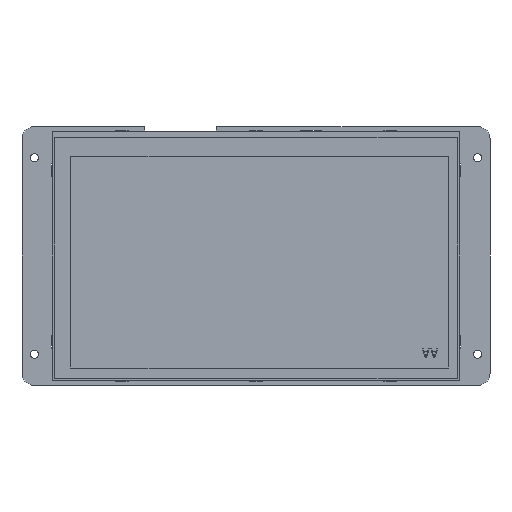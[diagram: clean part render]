
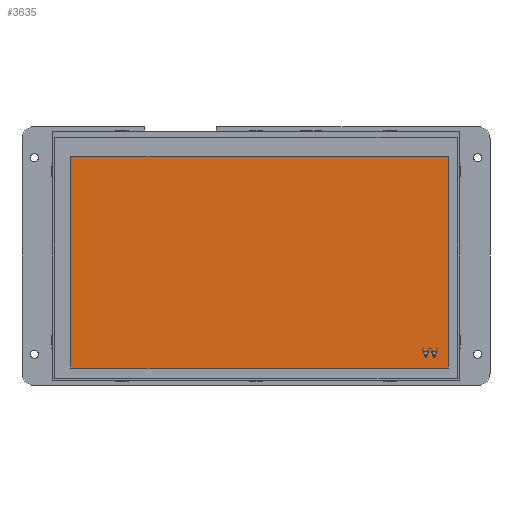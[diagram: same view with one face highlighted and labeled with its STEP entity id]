
A CAD part, front view. The second image highlights one B-rep face of the part: STEP entity #3635.
In plain terms, the highlighted planar face has unit normal (0, -1, 0) as drawn and (0, 1, 0) by its records, which use the part's own axes.
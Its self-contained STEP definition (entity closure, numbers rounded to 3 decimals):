
#3062=DIRECTION('',(0.,0.,1.));
#3063=VECTOR('',#3062,86.18);
#3064=CARTESIAN_POINT('',(-78.38,1.4,-44.77));
#3065=LINE('',#3064,#3063);
#3066=DIRECTION('',(-1.,0.,0.));
#3067=VECTOR('',#3066,153.68);
#3068=CARTESIAN_POINT('',(75.3,1.4,-44.77));
#3069=LINE('',#3068,#3067);
#3070=DIRECTION('',(0.,0.,-1.));
#3071=VECTOR('',#3070,86.18);
#3072=CARTESIAN_POINT('',(75.3,1.4,41.41));
#3073=LINE('',#3072,#3071);
#3074=DIRECTION('',(1.,0.,0.));
#3075=VECTOR('',#3074,153.68);
#3076=CARTESIAN_POINT('',(-78.38,1.4,41.41));
#3077=LINE('',#3076,#3075);
#3078=DIRECTION('',(0.316,0.,0.949));
#3079=VECTOR('',#3078,3.521);
#3080=CARTESIAN_POINT('',(-72.264,1.4,-40.371));
#3081=LINE('',#3080,#3079);
#3082=DIRECTION('',(1.,0.,0.));
#3083=VECTOR('',#3082,0.557);
#3084=CARTESIAN_POINT('',(-72.82,1.4,-40.371));
#3085=LINE('',#3084,#3083);
#3086=DIRECTION('',(0.316,0.,-0.949));
#3087=VECTOR('',#3086,3.521);
#3088=CARTESIAN_POINT('',(-73.934,1.4,-37.031));
#3089=LINE('',#3088,#3087);
#3090=DIRECTION('',(-1.,0.,0.));
#3091=VECTOR('',#3090,0.418);
#3092=CARTESIAN_POINT('',(-73.516,1.4,-37.031));
#3093=LINE('',#3092,#3091);
#3094=DIRECTION('',(-0.31,0.,0.951));
#3095=VECTOR('',#3094,0.897);
#3096=CARTESIAN_POINT('',(-73.238,1.4,-37.884));
#3097=LINE('',#3096,#3095);
#3098=DIRECTION('',(-1.,0.,0.));
#3099=VECTOR('',#3098,1.392);
#3100=CARTESIAN_POINT('',(-71.846,1.4,-37.884));
#3101=LINE('',#3100,#3099);
#3102=DIRECTION('',(-0.31,0.,-0.951));
#3103=VECTOR('',#3102,0.897);
#3104=CARTESIAN_POINT('',(-71.568,1.4,-37.031));
#3105=LINE('',#3104,#3103);
#3106=DIRECTION('',(-1.,0.,0.));
#3107=VECTOR('',#3106,0.418);
#3108=CARTESIAN_POINT('',(-71.15,1.4,-37.031));
#3109=LINE('',#3108,#3107);
#3122=DIRECTION('',(0.316,0.,0.949));
#3123=VECTOR('',#3122,3.521);
#3124=CARTESIAN_POINT('',(-68.924,1.4,-40.371));
#3125=LINE('',#3124,#3123);
#3126=DIRECTION('',(1.,0.,0.));
#3127=VECTOR('',#3126,0.557);
#3128=CARTESIAN_POINT('',(-69.48,1.4,-40.371));
#3129=LINE('',#3128,#3127);
#3130=DIRECTION('',(0.316,0.,-0.949));
#3131=VECTOR('',#3130,3.521);
#3132=CARTESIAN_POINT('',(-70.594,1.4,-37.031));
#3133=LINE('',#3132,#3131);
#3134=DIRECTION('',(-1.,0.,0.));
#3135=VECTOR('',#3134,0.418);
#3136=CARTESIAN_POINT('',(-70.176,1.4,-37.031));
#3137=LINE('',#3136,#3135);
#3138=DIRECTION('',(-0.31,0.,0.951));
#3139=VECTOR('',#3138,0.897);
#3140=CARTESIAN_POINT('',(-69.898,1.4,-37.884));
#3141=LINE('',#3140,#3139);
#3142=DIRECTION('',(-1.,0.,0.));
#3143=VECTOR('',#3142,1.392);
#3144=CARTESIAN_POINT('',(-68.506,1.4,-37.884));
#3145=LINE('',#3144,#3143);
#3146=DIRECTION('',(-0.31,0.,-0.951));
#3147=VECTOR('',#3146,0.897);
#3148=CARTESIAN_POINT('',(-68.228,1.4,-37.031));
#3149=LINE('',#3148,#3147);
#3150=DIRECTION('',(-1.,0.,0.));
#3151=VECTOR('',#3150,0.418);
#3152=CARTESIAN_POINT('',(-67.81,1.4,-37.031));
#3153=LINE('',#3152,#3151);
#3270=CARTESIAN_POINT('',(-78.38,1.4,-44.77));
#3271=CARTESIAN_POINT('',(-78.38,1.4,41.41));
#3272=VERTEX_POINT('',#3270);
#3273=VERTEX_POINT('',#3271);
#3274=CARTESIAN_POINT('',(75.3,1.4,41.41));
#3275=VERTEX_POINT('',#3274);
#3276=CARTESIAN_POINT('',(75.3,1.4,-44.77));
#3277=VERTEX_POINT('',#3276);
#3278=CARTESIAN_POINT('',(-72.264,1.4,-40.371));
#3279=CARTESIAN_POINT('',(-71.15,1.4,-37.031));
#3280=VERTEX_POINT('',#3278);
#3281=VERTEX_POINT('',#3279);
#3282=CARTESIAN_POINT('',(-71.568,1.4,-37.031));
#3283=VERTEX_POINT('',#3282);
#3284=CARTESIAN_POINT('',(-71.846,1.4,-37.884));
#3285=VERTEX_POINT('',#3284);
#3286=CARTESIAN_POINT('',(-73.238,1.4,-37.884));
#3287=VERTEX_POINT('',#3286);
#3288=CARTESIAN_POINT('',(-73.516,1.4,-37.031));
#3289=VERTEX_POINT('',#3288);
#3290=CARTESIAN_POINT('',(-73.934,1.4,-37.031));
#3291=VERTEX_POINT('',#3290);
#3292=CARTESIAN_POINT('',(-72.82,1.4,-40.371));
#3293=VERTEX_POINT('',#3292);
#3300=CARTESIAN_POINT('',(-68.924,1.4,-40.371));
#3301=CARTESIAN_POINT('',(-67.81,1.4,-37.031));
#3302=VERTEX_POINT('',#3300);
#3303=VERTEX_POINT('',#3301);
#3304=CARTESIAN_POINT('',(-68.228,1.4,-37.031));
#3305=VERTEX_POINT('',#3304);
#3306=CARTESIAN_POINT('',(-68.506,1.4,-37.884));
#3307=VERTEX_POINT('',#3306);
#3308=CARTESIAN_POINT('',(-69.898,1.4,-37.884));
#3309=VERTEX_POINT('',#3308);
#3310=CARTESIAN_POINT('',(-70.176,1.4,-37.031));
#3311=VERTEX_POINT('',#3310);
#3312=CARTESIAN_POINT('',(-70.594,1.4,-37.031));
#3313=VERTEX_POINT('',#3312);
#3314=CARTESIAN_POINT('',(-69.48,1.4,-40.371));
#3315=VERTEX_POINT('',#3314);
#3588=CARTESIAN_POINT('',(0.,1.4,0.));
#3589=DIRECTION('',(0.,1.,0.));
#3590=DIRECTION('',(1.,0.,0.));
#3591=AXIS2_PLACEMENT_3D('',#3588,#3589,#3590);
#3592=PLANE('',#3591);
#3593=ORIENTED_EDGE('',*,*,#3540,.F.);
#3594=ORIENTED_EDGE('',*,*,#3555,.F.);
#3595=ORIENTED_EDGE('',*,*,#3569,.F.);
#3596=ORIENTED_EDGE('',*,*,#3582,.F.);
#3597=EDGE_LOOP('',(#3593,#3594,#3595,#3596));
#3598=FACE_OUTER_BOUND('',#3597,.F.);
#3600=ORIENTED_EDGE('',*,*,#3599,.F.);
#3602=ORIENTED_EDGE('',*,*,#3601,.F.);
#3604=ORIENTED_EDGE('',*,*,#3603,.F.);
#3606=ORIENTED_EDGE('',*,*,#3605,.F.);
#3608=ORIENTED_EDGE('',*,*,#3607,.F.);
#3610=ORIENTED_EDGE('',*,*,#3609,.F.);
#3612=ORIENTED_EDGE('',*,*,#3611,.F.);
#3614=ORIENTED_EDGE('',*,*,#3613,.F.);
#3615=EDGE_LOOP('',(#3600,#3602,#3604,#3606,#3608,#3610,#3612,#3614));
#3616=FACE_BOUND('',#3615,.F.);
#3618=ORIENTED_EDGE('',*,*,#3617,.F.);
#3620=ORIENTED_EDGE('',*,*,#3619,.F.);
#3622=ORIENTED_EDGE('',*,*,#3621,.F.);
#3624=ORIENTED_EDGE('',*,*,#3623,.F.);
#3626=ORIENTED_EDGE('',*,*,#3625,.F.);
#3628=ORIENTED_EDGE('',*,*,#3627,.F.);
#3630=ORIENTED_EDGE('',*,*,#3629,.F.);
#3632=ORIENTED_EDGE('',*,*,#3631,.F.);
#3633=EDGE_LOOP('',(#3618,#3620,#3622,#3624,#3626,#3628,#3630,#3632));
#3634=FACE_BOUND('',#3633,.F.);
#3540=EDGE_CURVE('',#3272,#3273,#3065,.T.);
#3555=EDGE_CURVE('',#3277,#3272,#3069,.T.);
#3569=EDGE_CURVE('',#3275,#3277,#3073,.T.);
#3582=EDGE_CURVE('',#3273,#3275,#3077,.T.);
#3599=EDGE_CURVE('',#3280,#3281,#3081,.T.);
#3601=EDGE_CURVE('',#3293,#3280,#3085,.T.);
#3603=EDGE_CURVE('',#3291,#3293,#3089,.T.);
#3605=EDGE_CURVE('',#3289,#3291,#3093,.T.);
#3607=EDGE_CURVE('',#3287,#3289,#3097,.T.);
#3609=EDGE_CURVE('',#3285,#3287,#3101,.T.);
#3611=EDGE_CURVE('',#3283,#3285,#3105,.T.);
#3613=EDGE_CURVE('',#3281,#3283,#3109,.T.);
#3617=EDGE_CURVE('',#3302,#3303,#3125,.T.);
#3619=EDGE_CURVE('',#3315,#3302,#3129,.T.);
#3621=EDGE_CURVE('',#3313,#3315,#3133,.T.);
#3623=EDGE_CURVE('',#3311,#3313,#3137,.T.);
#3625=EDGE_CURVE('',#3309,#3311,#3141,.T.);
#3627=EDGE_CURVE('',#3307,#3309,#3145,.T.);
#3629=EDGE_CURVE('',#3305,#3307,#3149,.T.);
#3631=EDGE_CURVE('',#3303,#3305,#3153,.T.);
#3635=ADVANCED_FACE('',(#3598,#3616,#3634),#3592,.T.);
